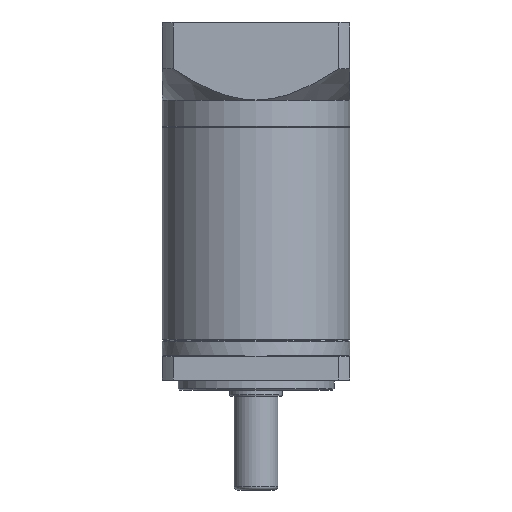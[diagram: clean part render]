
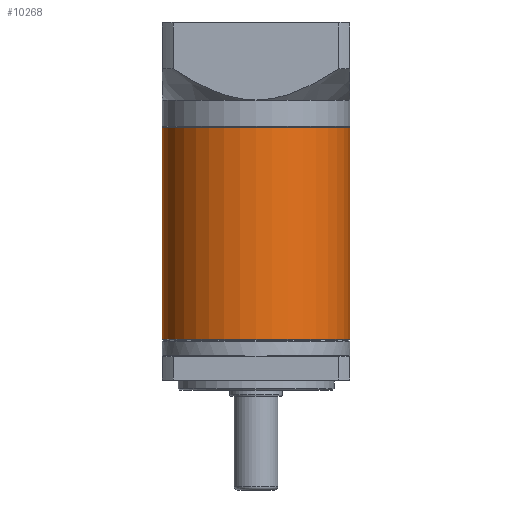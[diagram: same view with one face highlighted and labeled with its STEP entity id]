
A CAD part, front view. The second image highlights one B-rep face of the part: STEP entity #10268.
In plain terms, the highlighted cylindrical face has radius 30 mm (diameter 60 mm), a partial arc.
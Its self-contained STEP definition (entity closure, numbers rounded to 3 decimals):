
#466 = CARTESIAN_POINT ( 'NONE',  ( -62.968, 26.169, -108.292 ) ) ;
#1743 = EDGE_CURVE ( 'NONE', #83104, #70770, #48574, .T. ) ;
#1877 = AXIS2_PLACEMENT_3D ( 'NONE', #87917, #103624, #32158 ) ;
#3311 = CYLINDRICAL_SURFACE ( 'NONE', #1877, 30. ) ;
#3428 = DIRECTION ( 'NONE',  ( 1., 0., 0. ) ) ;
#4098 = EDGE_CURVE ( 'NONE', #40620, #83104, #67564, .T. ) ;
#7784 = ORIENTED_EDGE ( 'NONE', *, *, #93760, .F. ) ;
#9969 = AXIS2_PLACEMENT_3D ( 'NONE', #89650, #51274, #3428 ) ;
#10268 = ADVANCED_FACE ( 'NONE', ( #20225 ), #3311, .T. ) ;
#19815 = DIRECTION ( 'NONE',  ( 1., 0., 0. ) ) ;
#20225 = FACE_OUTER_BOUND ( 'NONE', #33081, .T. ) ;
#27860 = DIRECTION ( 'NONE',  ( 0., 0., -1. ) ) ;
#32158 = DIRECTION ( 'NONE',  ( -1., 0., 0. ) ) ;
#33081 = EDGE_LOOP ( 'NONE', ( #7784, #97778, #99036, #62140 ) ) ;
#35561 = DIRECTION ( 'NONE',  ( 0., 0., 1. ) ) ;
#37529 = CARTESIAN_POINT ( 'NONE',  ( -2.968, 26.169, -40.492 ) ) ;
#40620 = VERTEX_POINT ( 'NONE', #80974 ) ;
#43862 = LINE ( 'NONE', #76658, #83741 ) ;
#46303 = VECTOR ( 'NONE', #69409, 1000. ) ;
#48574 = CIRCLE ( 'NONE', #63601, 30. ) ;
#50894 = CARTESIAN_POINT ( 'NONE',  ( -32.968, 26.169, -108.292 ) ) ;
#51274 = DIRECTION ( 'NONE',  ( 0., 0., -1. ) ) ;
#62140 = ORIENTED_EDGE ( 'NONE', *, *, #1743, .T. ) ;
#63601 = AXIS2_PLACEMENT_3D ( 'NONE', #50894, #35561, #19815 ) ;
#67564 = LINE ( 'NONE', #69077, #46303 ) ;
#69077 = CARTESIAN_POINT ( 'NONE',  ( -62.968, 26.169, -40.242 ) ) ;
#69409 = DIRECTION ( 'NONE',  ( 0., 0., -1. ) ) ;
#70770 = VERTEX_POINT ( 'NONE', #95612 ) ;
#76658 = CARTESIAN_POINT ( 'NONE',  ( -2.968, 26.169, -40.242 ) ) ;
#77122 = EDGE_CURVE ( 'NONE', #99584, #40620, #92738, .T. ) ;
#80974 = CARTESIAN_POINT ( 'NONE',  ( -62.968, 26.169, -40.492 ) ) ;
#83104 = VERTEX_POINT ( 'NONE', #466 ) ;
#83741 = VECTOR ( 'NONE', #27860, 1000. ) ;
#87917 = CARTESIAN_POINT ( 'NONE',  ( -32.968, 26.169, -40.242 ) ) ;
#89650 = CARTESIAN_POINT ( 'NONE',  ( -32.968, 26.169, -40.492 ) ) ;
#92738 = CIRCLE ( 'NONE', #9969, 30. ) ;
#93760 = EDGE_CURVE ( 'NONE', #99584, #70770, #43862, .T. ) ;
#95612 = CARTESIAN_POINT ( 'NONE',  ( -2.968, 26.169, -108.292 ) ) ;
#97778 = ORIENTED_EDGE ( 'NONE', *, *, #77122, .T. ) ;
#99036 = ORIENTED_EDGE ( 'NONE', *, *, #4098, .T. ) ;
#99584 = VERTEX_POINT ( 'NONE', #37529 ) ;
#103624 = DIRECTION ( 'NONE',  ( 0., 0., -1. ) ) ;
